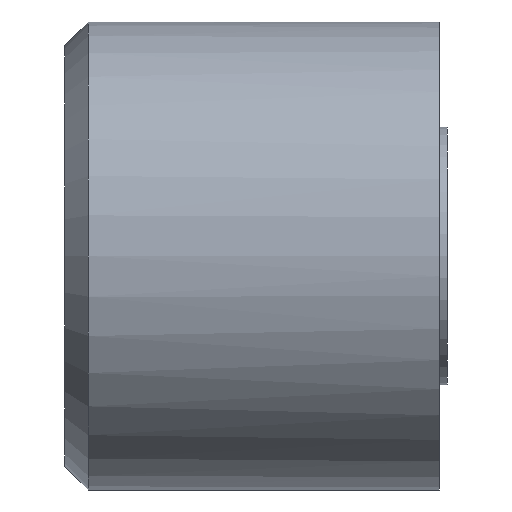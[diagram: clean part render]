
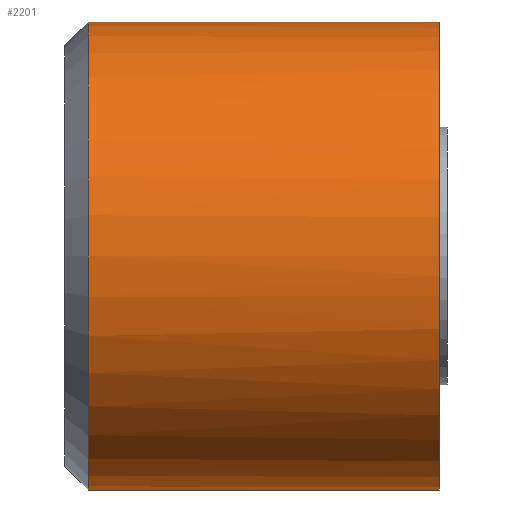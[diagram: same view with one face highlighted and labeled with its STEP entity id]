
A CAD part, front view. The second image highlights one B-rep face of the part: STEP entity #2201.
In plain terms, the highlighted cylindrical face has radius 10 mm (diameter 20 mm), a partial arc.
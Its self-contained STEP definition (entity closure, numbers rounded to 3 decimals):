
#124=CARTESIAN_POINT('Vertex',(0.,0.,-10.)) ;
#130=CARTESIAN_POINT('Control Point',(0.,-10.,0.)) ;
#131=CARTESIAN_POINT('Control Point',(0.,-10.,-0.93)) ;
#132=CARTESIAN_POINT('Control Point',(0.,-9.892,-1.859)) ;
#133=CARTESIAN_POINT('Control Point',(0.,-9.676,-2.772)) ;
#134=CARTESIAN_POINT('Control Point',(0.,-9.036,-4.53)) ;
#135=CARTESIAN_POINT('Control Point',(0.,-8.01,-6.095)) ;
#136=CARTESIAN_POINT('Control Point',(0.,-7.407,-6.815)) ;
#137=CARTESIAN_POINT('Control Point',(0.,-6.047,-8.1)) ;
#138=CARTESIAN_POINT('Control Point',(0.,-4.428,-9.039)) ;
#139=CARTESIAN_POINT('Control Point',(0.,-3.567,-9.412)) ;
#140=CARTESIAN_POINT('Control Point',(0.,-2.331,-9.784)) ;
#141=CARTESIAN_POINT('Control Point',(0.,-1.058,-9.953)) ;
#142=CARTESIAN_POINT('Control Point',(0.,-0.706,-9.984)) ;
#143=CARTESIAN_POINT('Control Point',(0.,-0.353,-10.)) ;
#144=CARTESIAN_POINT('Control Point',(0.,0.,-10.)) ;
#145=CARTESIAN_POINT('Vertex',(0.,-10.,0.)) ;
#149=CARTESIAN_POINT('Control Point',(0.,0.,10.)) ;
#150=CARTESIAN_POINT('Control Point',(0.,-0.576,10.)) ;
#151=CARTESIAN_POINT('Control Point',(0.,-1.153,9.958)) ;
#152=CARTESIAN_POINT('Control Point',(0.,-1.725,9.875)) ;
#153=CARTESIAN_POINT('Control Point',(0.,-3.2,9.551)) ;
#154=CARTESIAN_POINT('Control Point',(0.,-4.594,8.955)) ;
#155=CARTESIAN_POINT('Control Point',(0.,-5.408,8.489)) ;
#156=CARTESIAN_POINT('Control Point',(0.,-6.912,7.375)) ;
#157=CARTESIAN_POINT('Control Point',(0.,-8.121,5.946)) ;
#158=CARTESIAN_POINT('Control Point',(0.,-8.639,5.165)) ;
#159=CARTESIAN_POINT('Control Point',(0.,-9.383,3.696)) ;
#160=CARTESIAN_POINT('Control Point',(0.,-9.813,2.111)) ;
#161=CARTESIAN_POINT('Control Point',(0.,-9.938,1.412)) ;
#162=CARTESIAN_POINT('Control Point',(0.,-10.,0.706)) ;
#163=CARTESIAN_POINT('Control Point',(0.,-10.,0.)) ;
#164=CARTESIAN_POINT('Vertex',(0.,0.,10.)) ;
#2141=CARTESIAN_POINT('Line Origine',(16.,0.,10.)) ;
#2145=CARTESIAN_POINT('Vertex',(15.,0.,10.)) ;
#2159=CARTESIAN_POINT('Vertex',(15.,0.,-10.)) ;
#2162=CARTESIAN_POINT('Line Origine',(16.,0.,-10.)) ;
#2176=CARTESIAN_POINT('Axis2P3D Location',(16.,0.,0.)) ;
#2181=CARTESIAN_POINT('Axis2P3D Location',(15.,0.,0.)) ;
#2185=CARTESIAN_POINT('Vertex',(15.,-10.,0.)) ;
#2188=CARTESIAN_POINT('Axis2P3D Location',(15.,0.,0.)) ;
#2142=DIRECTION('Vector Direction',(-1.,0.,0.)) ;
#2163=DIRECTION('Vector Direction',(-1.,0.,0.)) ;
#2177=DIRECTION('Axis2P3D Direction',(-1.,-0.,-0.)) ;
#2178=DIRECTION('Axis2P3D XDirection',(0.,0.,-1.)) ;
#2182=DIRECTION('Axis2P3D Direction',(-1.,-0.,-0.)) ;
#2189=DIRECTION('Axis2P3D Direction',(-1.,-0.,-0.)) ;
#2179=AXIS2_PLACEMENT_3D('Cylinder Axis2P3D',#2176,#2177,#2178) ;
#2183=AXIS2_PLACEMENT_3D('Circle Axis2P3D',#2181,#2182,$) ;
#2190=AXIS2_PLACEMENT_3D('Circle Axis2P3D',#2188,#2189,$) ;
#2194=ORIENTED_EDGE('',*,*,#2166,.T.) ;
#2195=ORIENTED_EDGE('',*,*,#2187,.F.) ;
#2196=ORIENTED_EDGE('',*,*,#2192,.F.) ;
#2197=ORIENTED_EDGE('',*,*,#2147,.T.) ;
#2198=ORIENTED_EDGE('',*,*,#166,.T.) ;
#2199=ORIENTED_EDGE('',*,*,#147,.T.) ;
#2143=VECTOR('Line Direction',#2142,1.) ;
#2164=VECTOR('Line Direction',#2163,1.) ;
#2201=ADVANCED_FACE('D374-20-A-DM-FA',(#2200),#2180,.T.) ;
#129=B_SPLINE_CURVE_WITH_KNOTS('',5,(#130,#131,#132,#133,#134,#135,#136,#137,#138,#139,#140,#141,#142,#143,#144),.UNSPECIFIED.,.F.,.U.,(6,3,3,3,6),(0.,6.573,13.145,19.718,22.214),.UNSPECIFIED.) ;
#148=B_SPLINE_CURVE_WITH_KNOTS('',5,(#149,#150,#151,#152,#153,#154,#155,#156,#157,#158,#159,#160,#161,#162,#163),.UNSPECIFIED.,.F.,.U.,(6,3,3,3,6),(22.214,26.29,32.863,39.436,44.428),.UNSPECIFIED.) ;
#2184=CIRCLE('generated circle',#2183,10.) ;
#2191=CIRCLE('generated circle',#2190,10.) ;
#2180=CYLINDRICAL_SURFACE('generated cylinder',#2179,10.) ;
#147=EDGE_CURVE('',#146,#125,#129,.T.) ;
#166=EDGE_CURVE('',#165,#146,#148,.T.) ;
#2147=EDGE_CURVE('',#2146,#165,#2144,.T.) ;
#2166=EDGE_CURVE('',#125,#2160,#2165,.F.) ;
#2187=EDGE_CURVE('',#2186,#2160,#2184,.F.) ;
#2192=EDGE_CURVE('',#2146,#2186,#2191,.F.) ;
#2193=EDGE_LOOP('',(#2194,#2195,#2196,#2197,#2198,#2199)) ;
#2200=FACE_OUTER_BOUND('',#2193,.T.) ;
#2144=LINE('Line',#2141,#2143) ;
#2165=LINE('Line',#2162,#2164) ;
#125=VERTEX_POINT('',#124) ;
#146=VERTEX_POINT('',#145) ;
#165=VERTEX_POINT('',#164) ;
#2146=VERTEX_POINT('',#2145) ;
#2160=VERTEX_POINT('',#2159) ;
#2186=VERTEX_POINT('',#2185) ;
